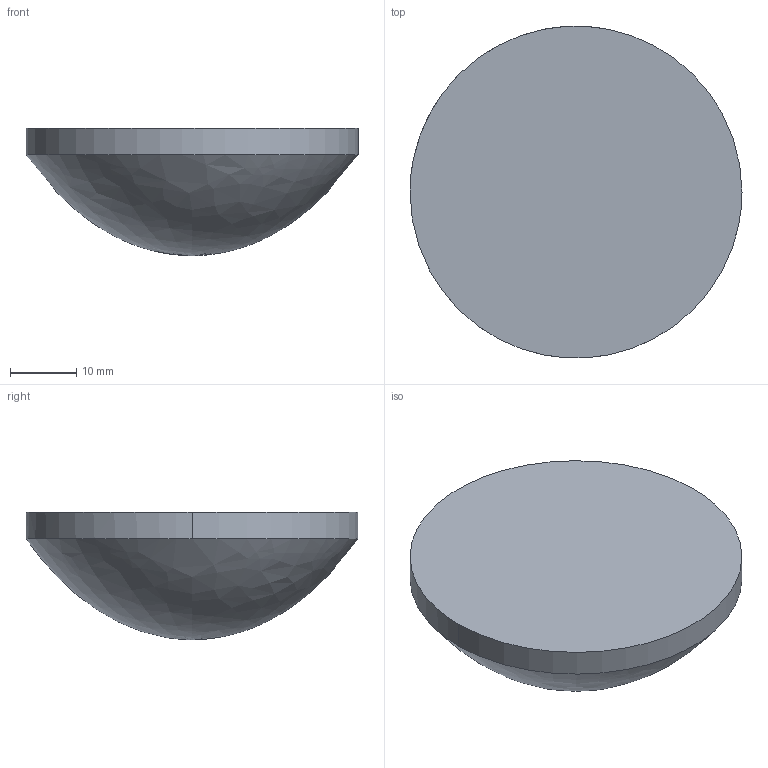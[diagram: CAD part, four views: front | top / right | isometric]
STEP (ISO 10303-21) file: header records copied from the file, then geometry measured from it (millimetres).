
FILE_DESCRIPTION ((), '1');
FILE_NAME ('D:\Applikationen\Optikdesign\StockOptics\Neuentwicklung StockOptics-Designs\AFL Aspheres\AFL50-50 (010709)\ZAS-010709-500-01A Linse Dmr.50_200921.STP', '2020-09-21T14:22:27', ('Unknown'), ('Unknown'), 'HarmonyWare STEP v2.0.6', 'HarmonyWare Translators', '');
FILE_SCHEMA (('CONFIG_CONTROL_DESIGN'));
Length unit declared in the file: millimetre
Products named in the file (1): NONE
Bounding box: 50 x 49.95 x 19.2 mm (x, y, z)
Volume: 23574.1 mm3; surface area: 5211.1 mm2
Topology: 1 solids, 1 shells, 4 faces, 9 edges, 6 vertices
Faces by surface type: cylinder 2, bspline 1, plane 1
Entity records: 355 total; most frequent: CARTESIAN_POINT 204, ORIENTED_EDGE 16, EDGE_CURVE 8, PERSON 8, ORGANIZATION 8, PERSON_AND_ORGANIZATION 8, VERTEX_POINT 6, DIRECTION 6
